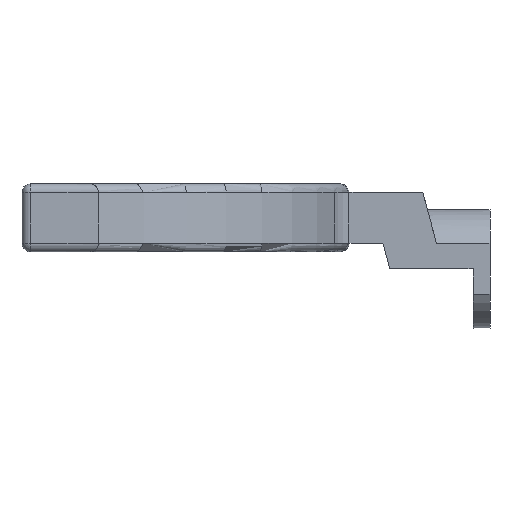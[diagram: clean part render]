
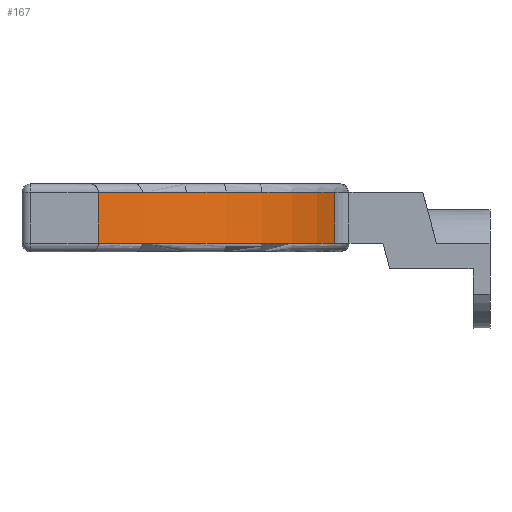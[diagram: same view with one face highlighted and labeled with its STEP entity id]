
A CAD part, left-side view. The second image highlights one B-rep face of the part: STEP entity #167.
In plain terms, the highlighted cylindrical face has radius 34 mm (diameter 68 mm), a partial arc.
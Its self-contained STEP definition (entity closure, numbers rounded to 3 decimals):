
#167=ADVANCED_FACE('',(#896),#898,.T.);
#896=FACE_BOUND('',#897,.T.);
#897=EDGE_LOOP('',(#1477,#1478,#1479,#1480));
#898=CYLINDRICAL_SURFACE('',#899,34.);
#899=AXIS2_PLACEMENT_3D('',#900,#901,#902);
#900=CARTESIAN_POINT('',(0.,0.,0.));
#901=DIRECTION('',(0.,0.,1.));
#902=DIRECTION('',(-0.991,-0.132,0.));
#1477=ORIENTED_EDGE('',*,*,#1829,.F.);
#1478=ORIENTED_EDGE('',*,*,#1830,.F.);
#1479=ORIENTED_EDGE('',*,*,#1831,.F.);
#1480=ORIENTED_EDGE('',*,*,#1832,.T.);
#1829=EDGE_CURVE('',#2005,#2006,#2007,.F.);
#1830=EDGE_CURVE('',#2008,#2005,#2009,.T.);
#1831=EDGE_CURVE('',#2010,#2008,#2011,.T.);
#1832=EDGE_CURVE('',#2010,#2006,#2012,.T.);
#2005=VERTEX_POINT('',#2285);
#2006=VERTEX_POINT('',#2286);
#2007=LINE('',#2287,#2288);
#2008=VERTEX_POINT('',#2290);
#2009=CIRCLE('',#2291,34.);
#2010=VERTEX_POINT('',#2295);
#2011=LINE('',#2296,#2297);
#2012=CIRCLE('',#2299,34.);
#2285=CARTESIAN_POINT('',(-10.595,-32.307,7.));
#2286=CARTESIAN_POINT('',(-10.595,-32.307,1.));
#2287=CARTESIAN_POINT('',(-10.595,-32.307,1.));
#2288=VECTOR('',#2289,1.);
#2289=DIRECTION('',(0.,0.,1.));
#2290=CARTESIAN_POINT('',(-33.701,-4.5,7.));
#2291=AXIS2_PLACEMENT_3D('',#2292,#2293,#2294);
#2292=CARTESIAN_POINT('',(0.,0.,7.));
#2293=DIRECTION('',(0.,0.,1.));
#2294=DIRECTION('',(-0.991,-0.132,0.));
#2295=CARTESIAN_POINT('',(-33.701,-4.5,1.));
#2296=CARTESIAN_POINT('',(-33.701,-4.5,1.));
#2297=VECTOR('',#2298,1.);
#2298=DIRECTION('',(0.,0.,1.));
#2299=AXIS2_PLACEMENT_3D('',#2300,#2301,#2302);
#2300=CARTESIAN_POINT('',(0.,0.,1.));
#2301=DIRECTION('',(0.,0.,1.));
#2302=DIRECTION('',(-0.991,-0.132,0.));
